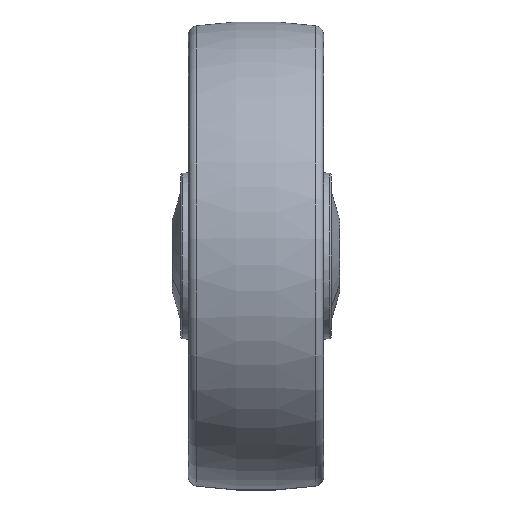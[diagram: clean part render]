
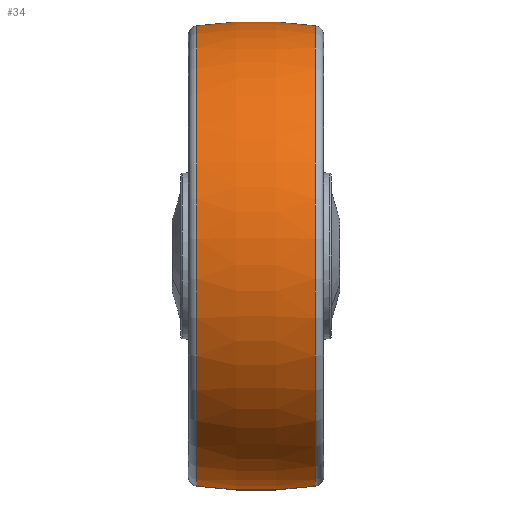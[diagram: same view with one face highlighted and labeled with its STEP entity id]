
A CAD part, front view. The second image highlights one B-rep face of the part: STEP entity #34.
In plain terms, the highlighted toroidal (fillet/blend) face has major radius 62.5 mm and minor radius 125 mm.
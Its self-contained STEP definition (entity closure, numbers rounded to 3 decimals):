
#32 = ORIENTED_EDGE ( 'NONE', *, *, #12168, .T. ) ;
#34 = ADVANCED_FACE ( 'NONE', ( #1119 ), #1117, .T. ) ;
#42 = EDGE_LOOP ( 'NONE', ( #12237, #12218, #32, #58 ) ) ;
#58 = ORIENTED_EDGE ( 'NONE', *, *, #12233, .F. ) ;
#1075 = DIRECTION ( 'NONE',  ( -1., 0., 0. ) ) ;
#1076 = CARTESIAN_POINT ( 'NONE',  ( -8.794, 3.203, 4.944 ) ) ;
#1111 = AXIS2_PLACEMENT_3D ( 'NONE', #1076, #1075, #1116 ) ;
#1116 = DIRECTION ( 'NONE',  ( 0., 0.075, 0.997 ) ) ;
#1117 = TOROIDAL_SURFACE ( 'NONE', #1111, -62.5, 125. ) ;
#1119 = FACE_OUTER_BOUND ( 'NONE', #42, .T. ) ;
#8627 = CIRCLE ( 'NONE', #8685, 125. ) ;
#8664 = CARTESIAN_POINT ( 'NONE',  ( 7.022, -1.431, -56.376 ) ) ;
#8675 = CARTESIAN_POINT ( 'NONE',  ( 7.022, 7.838, 66.264 ) ) ;
#8680 = DIRECTION ( 'NONE',  ( 0., -0.075, -0.997 ) ) ;
#8681 = DIRECTION ( 'NONE',  ( 0., -0.997, 0.075 ) ) ;
#8682 = CARTESIAN_POINT ( 'NONE',  ( -8.794, -1.507, -57.378 ) ) ;
#8685 = AXIS2_PLACEMENT_3D ( 'NONE', #8682, #8681, #8680 ) ;
#8787 = DIRECTION ( 'NONE',  ( 0., 0.075, 0.997 ) ) ;
#8788 = DIRECTION ( 'NONE',  ( -1., 0., 0. ) ) ;
#8789 = AXIS2_PLACEMENT_3D ( 'NONE', #8803, #8788, #8787 ) ;
#8801 = CIRCLE ( 'NONE', #8789, 61.495 ) ;
#8803 = CARTESIAN_POINT ( 'NONE',  ( -24.611, 3.203, 4.944 ) ) ;
#8827 = DIRECTION ( 'NONE',  ( 0., 0.075, 0.997 ) ) ;
#8828 = DIRECTION ( 'NONE',  ( 0., 0.997, -0.075 ) ) ;
#8829 = CARTESIAN_POINT ( 'NONE',  ( -8.794, 7.914, 67.266 ) ) ;
#8831 = CIRCLE ( 'NONE', #8836, 125. ) ;
#8836 = AXIS2_PLACEMENT_3D ( 'NONE', #8829, #8828, #8827 ) ;
#8839 = CARTESIAN_POINT ( 'NONE',  ( -24.611, -1.431, -56.376 ) ) ;
#8865 = CARTESIAN_POINT ( 'NONE',  ( -24.611, 7.838, 66.264 ) ) ;
#8983 = DIRECTION ( 'NONE',  ( 0., 0.075, 0.997 ) ) ;
#8984 = DIRECTION ( 'NONE',  ( -1., 0., 0. ) ) ;
#8986 = CIRCLE ( 'NONE', #8990, 61.495 ) ;
#8990 = AXIS2_PLACEMENT_3D ( 'NONE', #8993, #8984, #8983 ) ;
#8993 = CARTESIAN_POINT ( 'NONE',  ( 7.022, 3.203, 4.944 ) ) ;
#12168 = EDGE_CURVE ( 'NONE', #12172, #12257, #8627, .T. ) ;
#12172 = VERTEX_POINT ( 'NONE', #8675 ) ;
#12175 = VERTEX_POINT ( 'NONE', #8664 ) ;
#12218 = ORIENTED_EDGE ( 'NONE', *, *, #12316, .T. ) ;
#12233 = EDGE_CURVE ( 'NONE', #12246, #12257, #8801, .T. ) ;
#12237 = ORIENTED_EDGE ( 'NONE', *, *, #12248, .F. ) ;
#12246 = VERTEX_POINT ( 'NONE', #8839 ) ;
#12248 = EDGE_CURVE ( 'NONE', #12175, #12246, #8831, .T. ) ;
#12257 = VERTEX_POINT ( 'NONE', #8865 ) ;
#12316 = EDGE_CURVE ( 'NONE', #12175, #12172, #8986, .T. ) ;
